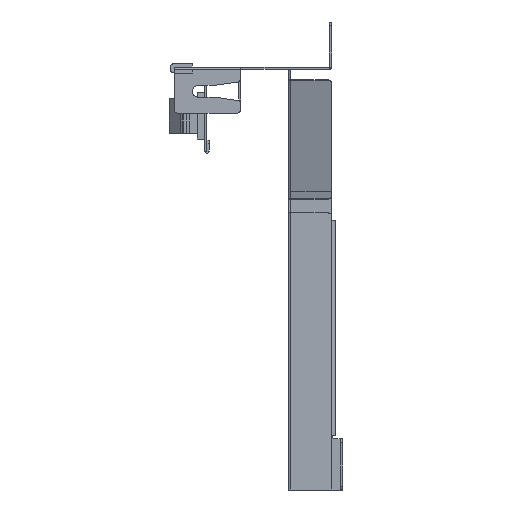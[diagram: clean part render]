
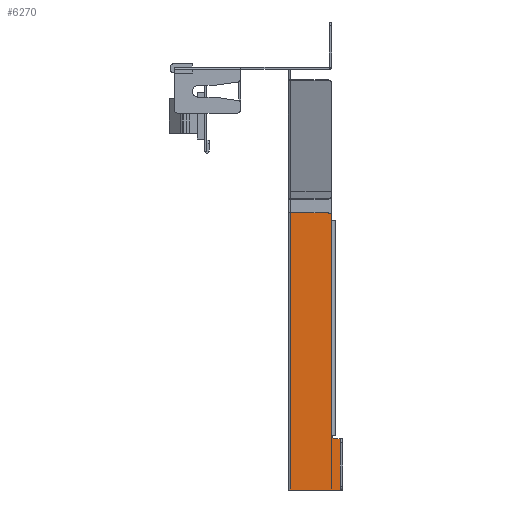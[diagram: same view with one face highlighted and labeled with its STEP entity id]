
A CAD part, left-side view. The second image highlights one B-rep face of the part: STEP entity #6270.
In plain terms, the highlighted planar face has unit normal (-1, 0, 0).
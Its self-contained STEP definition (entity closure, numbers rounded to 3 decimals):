
#2132=CARTESIAN_POINT('',(-64.5,-6.1,-41.));
#2133=DIRECTION('',(-1.,0.,0.));
#2134=DIRECTION('',(0.,-1.,0.));
#2135=AXIS2_PLACEMENT_3D('',#2132,#2133,#2134);
#2140=DIRECTION('',(0.,0.,1.));
#2141=VECTOR('',#2140,60.);
#2142=CARTESIAN_POINT('',(-64.5,-7.1,-101.));
#2143=LINE('',#2142,#2141);
#2147=DIRECTION('',(0.,1.,0.));
#2148=VECTOR('',#2147,1.3);
#2149=CARTESIAN_POINT('',(-64.5,-9.4,-102.));
#2150=LINE('',#2149,#2148);
#2154=DIRECTION('',(0.,1.,0.));
#2155=VECTOR('',#2154,10.4);
#2156=CARTESIAN_POINT('',(-64.5,-6.1,-40.));
#2157=LINE('',#2156,#2155);
#2211=DIRECTION('',(0.,-1.,0.));
#2212=VECTOR('',#2211,13.7);
#2213=CARTESIAN_POINT('',(-64.5,4.3,-116.));
#2214=LINE('',#2213,#2212);
#2360=DIRECTION('',(0.,0.,1.));
#2361=VECTOR('',#2360,14.);
#2362=CARTESIAN_POINT('',(-64.5,-9.4,-116.));
#2363=LINE('',#2362,#2361);
#2445=CARTESIAN_POINT('',(-64.5,-8.1,-101.));
#2446=DIRECTION('',(1.,0.,0.));
#2447=DIRECTION('',(0.,0.,-1.));
#2448=AXIS2_PLACEMENT_3D('',#2445,#2446,#2447);
#2482=DIRECTION('',(0.,0.,-1.));
#2483=VECTOR('',#2482,76.);
#2484=CARTESIAN_POINT('',(-64.5,4.3,-40.));
#2485=LINE('',#2484,#2483);
#3908=CARTESIAN_POINT('',(-64.5,4.3,-40.));
#3909=CARTESIAN_POINT('',(-64.5,4.3,-116.));
#3910=VERTEX_POINT('',#3908);
#3911=VERTEX_POINT('',#3909);
#4038=CARTESIAN_POINT('',(-64.5,-9.4,-116.));
#4039=VERTEX_POINT('',#4038);
#4040=CARTESIAN_POINT('',(-64.5,-9.4,-102.));
#4041=VERTEX_POINT('',#4040);
#4254=CARTESIAN_POINT('',(-64.5,-7.1,-41.));
#4255=CARTESIAN_POINT('',(-64.5,-6.1,-40.));
#4256=VERTEX_POINT('',#4254);
#4257=VERTEX_POINT('',#4255);
#4374=CARTESIAN_POINT('',(-64.5,-8.1,-102.));
#4376=VERTEX_POINT('',#4374);
#4378=CARTESIAN_POINT('',(-64.5,-7.1,-101.));
#4380=VERTEX_POINT('',#4378);
#6249=CARTESIAN_POINT('',(-64.5,4.9,-116.));
#6250=DIRECTION('',(-1.,0.,0.));
#6251=DIRECTION('',(0.,0.,-1.));
#6252=AXIS2_PLACEMENT_3D('',#6249,#6250,#6251);
#6253=PLANE('',#6252);
#6254=ORIENTED_EDGE('',*,*,#6239,.F.);
#6256=ORIENTED_EDGE('',*,*,#6255,.F.);
#6258=ORIENTED_EDGE('',*,*,#6257,.F.);
#6260=ORIENTED_EDGE('',*,*,#6259,.F.);
#6262=ORIENTED_EDGE('',*,*,#6261,.F.);
#6264=ORIENTED_EDGE('',*,*,#6263,.F.);
#6266=ORIENTED_EDGE('',*,*,#6265,.F.);
#6267=ORIENTED_EDGE('',*,*,#6226,.F.);
#6268=EDGE_LOOP('',(#6254,#6256,#6258,#6260,#6262,#6264,#6266,#6267));
#6269=FACE_OUTER_BOUND('',#6268,.F.);
#2136=CIRCLE('',#2135,1.);
#2449=CIRCLE('',#2448,1.);
#6226=EDGE_CURVE('',#4257,#3910,#2157,.T.);
#6239=EDGE_CURVE('',#4256,#4257,#2136,.T.);
#6255=EDGE_CURVE('',#4380,#4256,#2143,.T.);
#6257=EDGE_CURVE('',#4376,#4380,#2449,.T.);
#6259=EDGE_CURVE('',#4041,#4376,#2150,.T.);
#6261=EDGE_CURVE('',#4039,#4041,#2363,.T.);
#6263=EDGE_CURVE('',#3911,#4039,#2214,.T.);
#6265=EDGE_CURVE('',#3910,#3911,#2485,.T.);
#6270=ADVANCED_FACE('',(#6269),#6253,.T.);
